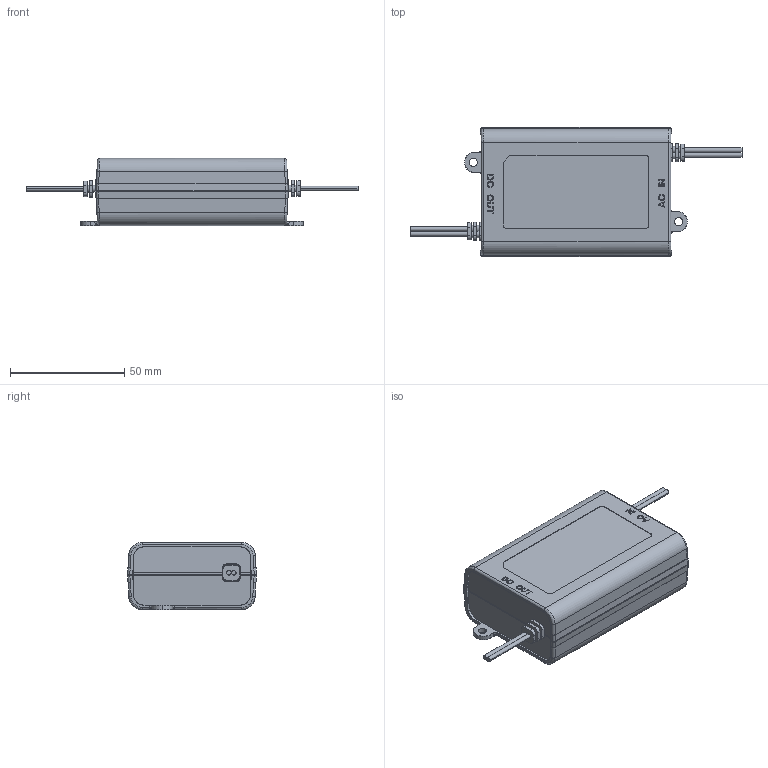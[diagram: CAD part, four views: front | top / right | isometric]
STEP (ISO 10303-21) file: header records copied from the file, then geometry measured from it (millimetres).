
FILE_DESCRIPTION(('Creo Elements/Direct Modeling STEP Export'),'2;1');
FILE_NAME('PLD-25.stp','2017-07-20T11:55:59',(''),(''),'PTC Creo Elements/Direct Modeling STEP processor for AP214 (Solid Model)','PTC Creo Elements/Direct Modeling 19.0 09-May-2014 (C) Parametric Technology GmbH','');
FILE_SCHEMA(('AUTOMOTIVE_DESIGN { 1 0 10303 214 1 1 1 1 }'));
Length unit declared in the file: millimetre
Products named in the file (13): _S_JU_S____24.PRT; A1_24.ASM; DD_24_1.PRT; MSBR_1_1_1_24.PRT; HH_1_24.PRT; DD_24.PRT; PCB_3_24.PRT; HH_24.PRT; PCB_3_2_24.PRT; PCB_24.ASM; ALL_24.ASM; APC-25_24.ASM; PLD-25.stp
Assembly tree (13 placements, depth 5):
  PLD-25.stp
    APC-25_24.ASM
      ALL_24.ASM
        PCB_24.ASM
          PCB_3_2_24.PRT
          HH_24.PRT
          PCB_3_24.PRT
          DD_24.PRT
          HH_1_24.PRT
          MSBR_1_1_1_24.PRT  x2
          DD_24_1.PRT
        A1_24.ASM
          _S_JU_S____24.PRT
Bounding box: 145.61 x 56.62 x 29.5 mm (x, y, z)
Volume: 66663.8 mm3; surface area: 52403.1 mm2
Topology: 9 solids, 9 shells, 964 faces, 2678 edges, 1759 vertices
Faces by surface type: plane 745, cylinder 173, torus 20, bspline 18, sphere 8
Entity records: 32160 total; most frequent: CARTESIAN_POINT 8298, ORIENTED_EDGE 5076, DIRECTION 4365, EDGE_CURVE 2538, VECTOR 2147, LINE 2147, VERTEX_POINT 1671, AXIS2_PLACEMENT_3D 1109
